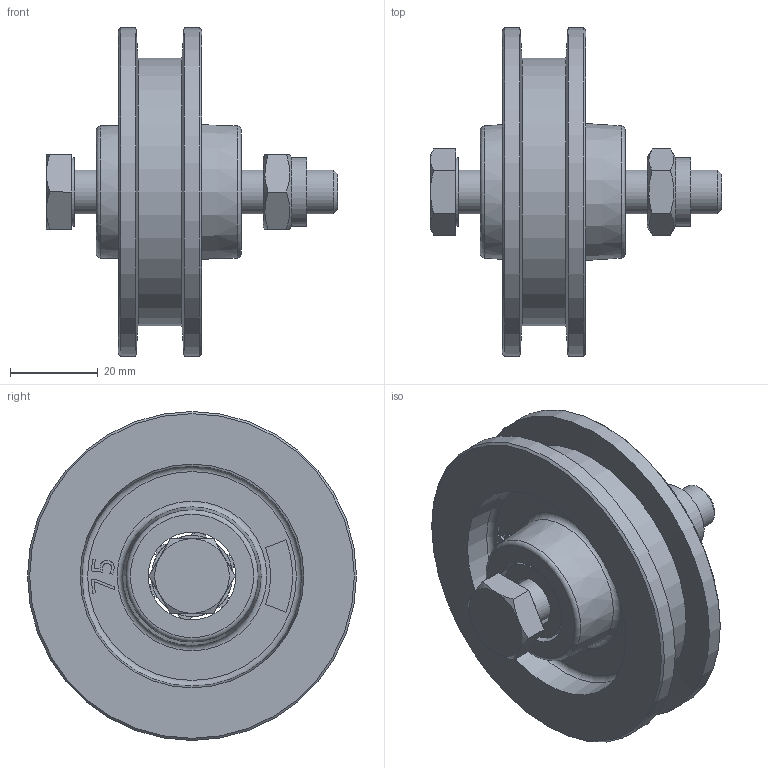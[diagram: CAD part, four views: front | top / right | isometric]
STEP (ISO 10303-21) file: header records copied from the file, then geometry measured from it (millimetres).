
FILE_DESCRIPTION(/* description */ ('Schiebetorrolle lose Ø75'),/* implementation_level */ '2;1');
FILE_NAME(/* name */ 'C:\Temp\AG_VJobSTP\010330426.iam.stp',/* time_stamp */ '2022-09-02T09:51:14+02:00',/* author */ ('O. Loukota'),/* organization */ (''),/* preprocessor_version */ 'ST-DEVELOPER v18.1',/* originating_system */ 'Autodesk Inventor 2021',/* authorisation */ '');
FILE_SCHEMA (('AUTOMOTIVE_DESIGN { 1 0 10303 214 3 1 1 }'));
Length unit declared in the file: millimetre
Products named in the file (8): 010330426; 337000105; DIN EN ISO 7040 - M10; DIN 931-1 - M10 x 60; 010330426_01; 337000303; 337000304; 337000305
Assembly tree (12 placements, depth 3):
  010330426
    337000105
    DIN EN ISO 7040 - M10
    DIN 931-1 - M10 x 60
    010330426_01
      337000303
      337000304
      337000305  x6
Bounding box: 66.4 x 75 x 75 mm (x, y, z)
Volume: 64482.8 mm3; surface area: 31550.5 mm2
Topology: 11 solids, 11 shells, 170 faces, 375 edges, 241 vertices
Faces by surface type: plane 76, cylinder 44, cone 31, bspline 13, torus 6
Full cylindrical faces by diameter (mm): 2 x12, 5 x6, 8.376 x1, 10 x1, 11.5 x2, 15.6 x2, 18.5 x2, 20 x1, 61 x1, 75 x2
Entity records: 4877 total; most frequent: CARTESIAN_POINT 983, DIRECTION 789, ORIENTED_EDGE 720, EDGE_CURVE 360, AXIS2_PLACEMENT_3D 317, VERTEX_POINT 231, EDGE_LOOP 189, CIRCLE 155
